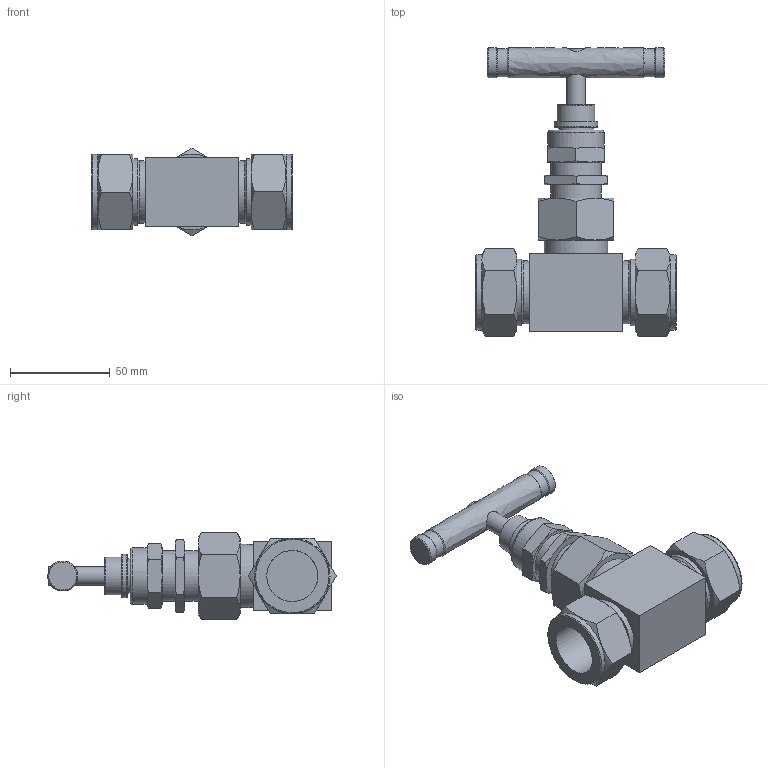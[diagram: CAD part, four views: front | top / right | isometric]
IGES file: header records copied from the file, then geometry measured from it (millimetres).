
Global section: file name: SUNV3-S16-S316; native system: Autodesk Inventor 2016; preprocessor: unknown; author: 이승민,,11,0; organization: 20161215.103325; date: 20161216.193101; units: millimetre
Bounding box: 100.4 x 144.58 x 43.99 mm (x, y, z)
Volume: 166932.5 mm3; surface area: 44934.1 mm2
Topology: 3 solids, 3 shells, 161 faces, 405 edges, 270 vertices
Faces by surface type: bspline 161
